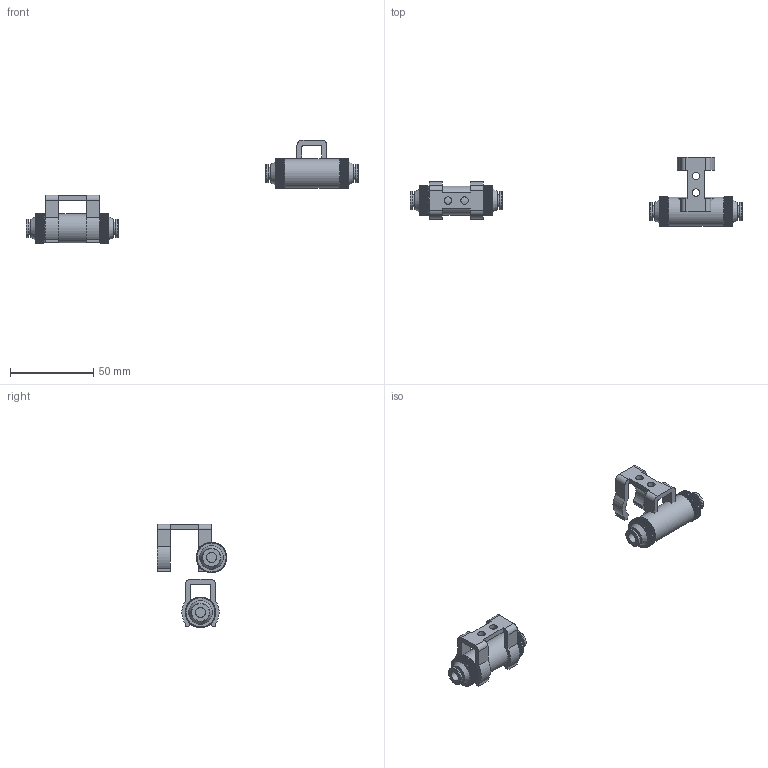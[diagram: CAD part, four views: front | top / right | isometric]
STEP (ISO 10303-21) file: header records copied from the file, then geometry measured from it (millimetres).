
FILE_DESCRIPTION( ( 'Unknown' ), '1' );
FILE_NAME( 'C:/Documents and Settings/茄惫春概平/My Documents/诀公/3d/Line Vacuum Filter/VTF-0706.stp', 'Unknown', ( 'Unknown' ), ( 'Unknown' ), 'PSStep 10.0', 'Unknown', ' ' );
FILE_SCHEMA( ( 'automotive_design' ) );
Length unit declared in the file: millimetre
Products named in the file (3): Assem1; VTF-0706; VFD0206
Bounding box: 199.88 x 42.04 x 62.29 mm (x, y, z)
Volume: 30597.3 mm3; surface area: 14915.4 mm2
Topology: 4 solids, 4 shells, 1362 faces, 3990 edges, 2656 vertices
Faces by surface type: plane 572, cylinder 530, cone 256, torus 4
Full cylindrical faces by diameter (mm): 4.5 x4, 6 x4, 7.3 x4, 11 x4, 17.5 x2
Entity records: 25766 total; most frequent: CARTESIAN_POINT 7944, ORIENTED_EDGE 3948, DIRECTION 3284, EDGE_CURVE 1974, VERTEX_POINT 1326, AXIS2_PLACEMENT_3D 1226, LINE 832, VECTOR 832
